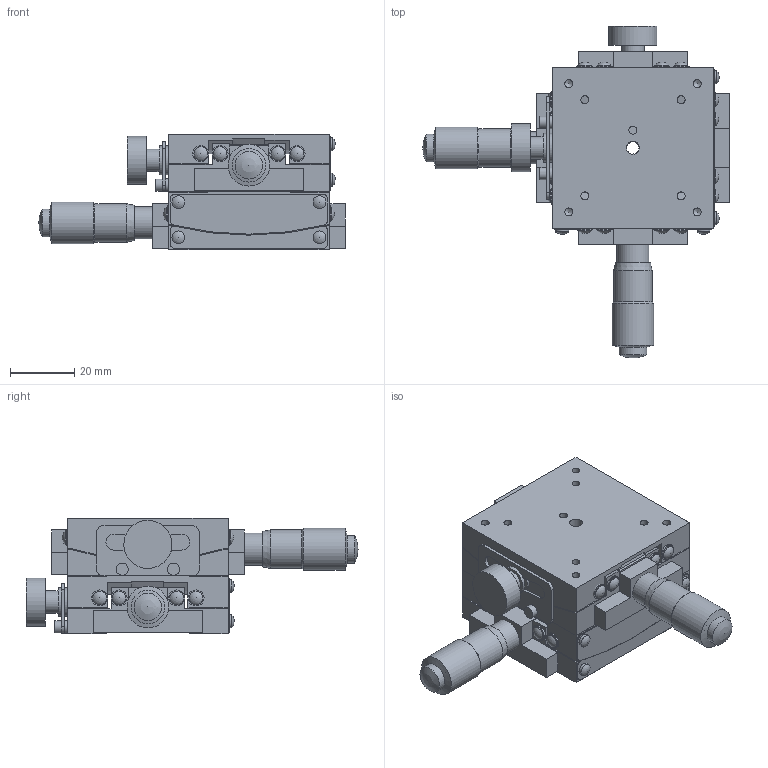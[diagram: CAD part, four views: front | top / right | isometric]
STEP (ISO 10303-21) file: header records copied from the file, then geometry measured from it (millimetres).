
FILE_DESCRIPTION( ( 'STEP AP203' ), '1' );
FILE_NAME( 'C:/3D-Trans/3D_B59-50LAR+080911.step', '2008-09-11T00:31:36', ( ' ' ), ( ' ' ), 'XStep 1.0', ' ', ' ' );
FILE_SCHEMA( ( 'CONFIG_CONTROL_DESIGN' ) );
Length unit declared in the file: millimetre
Products named in the file (6): 1; 2; 3; 4; 5; 6
Bounding box: 95.5 x 103.5 x 36 mm (x, y, z)
Volume: 92558.3 mm3; surface area: 48216.6 mm2
Topology: 6 solids, 10 shells, 503 faces, 1298 edges, 839 vertices
Faces by surface type: plane 237, cylinder 218, sphere 28, cone 20
Full cylindrical faces by diameter (mm): 2.5 x26, 3.5 x4, 3.8 x4, 4 x18, 4.3 x16, 5 x20, 6 x4, 6.5 x2, 7 x2, 8.6 x2, 9 x4, 9.5 x6, 10 x6, 10.5 x2, 11 x2, 12 x2, 13 x2, 15 x2
Entity records: 14701 total; most frequent: CARTESIAN_POINT 3214, DIRECTION 2421, ORIENTED_EDGE 2032, EDGE_CURVE 1016, AXIS2_PLACEMENT_3D 936, EDGE_LOOP 741, VERTEX_POINT 737, FACE_OUTER_BOUND 627
